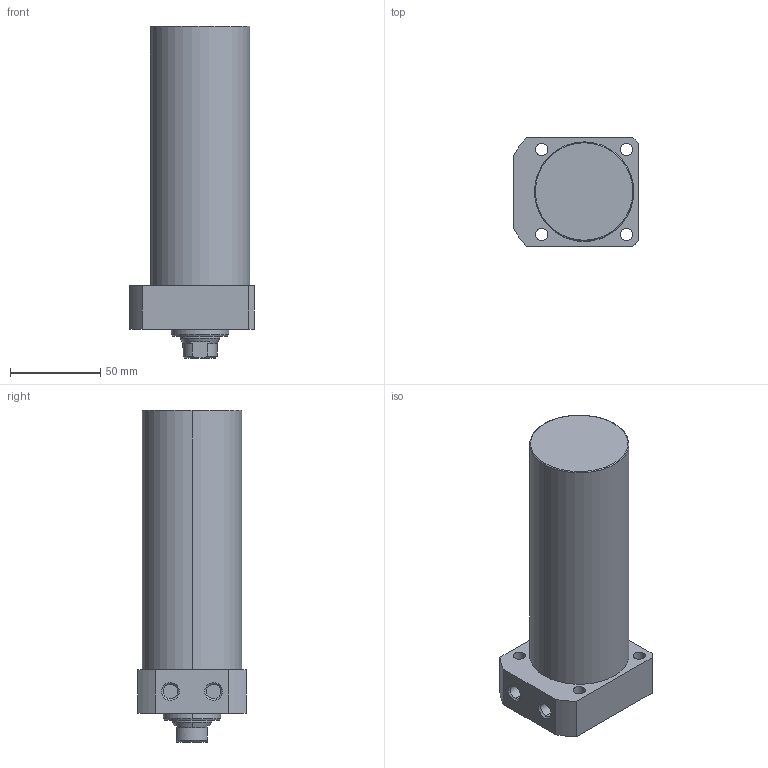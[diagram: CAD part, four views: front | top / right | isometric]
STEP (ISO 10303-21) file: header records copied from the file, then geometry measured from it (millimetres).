
FILE_DESCRIPTION (( 'STEP AP203' ), '1' );
FILE_NAME ('CLLR-055CA-115.STEP', '2019-12-17T11:35:02', ( '' ), ( '' ), 'SwSTEP 2.0', 'SolidWorks 2015', '' );
FILE_SCHEMA (( 'CONFIG_CONTROL_DESIGN' ));
Length unit declared in the file: millimetre
Products named in the file (1): CLLR-055CA-115
Bounding box: 69 x 60 x 184 mm (x, y, z)
Volume: 439746.9 mm3; surface area: 43168.4 mm2
Topology: 1 solids, 1 shells, 65 faces, 150 edges, 93 vertices
Faces by surface type: cylinder 29, plane 19, cone 15, torus 2
Entity records: 1959 total; most frequent: DIRECTION 348, CARTESIAN_POINT 347, ORIENTED_EDGE 296, EDGE_CURVE 148, AXIS2_PLACEMENT_3D 142, VERTEX_POINT 93, EDGE_LOOP 81, CIRCLE 76
